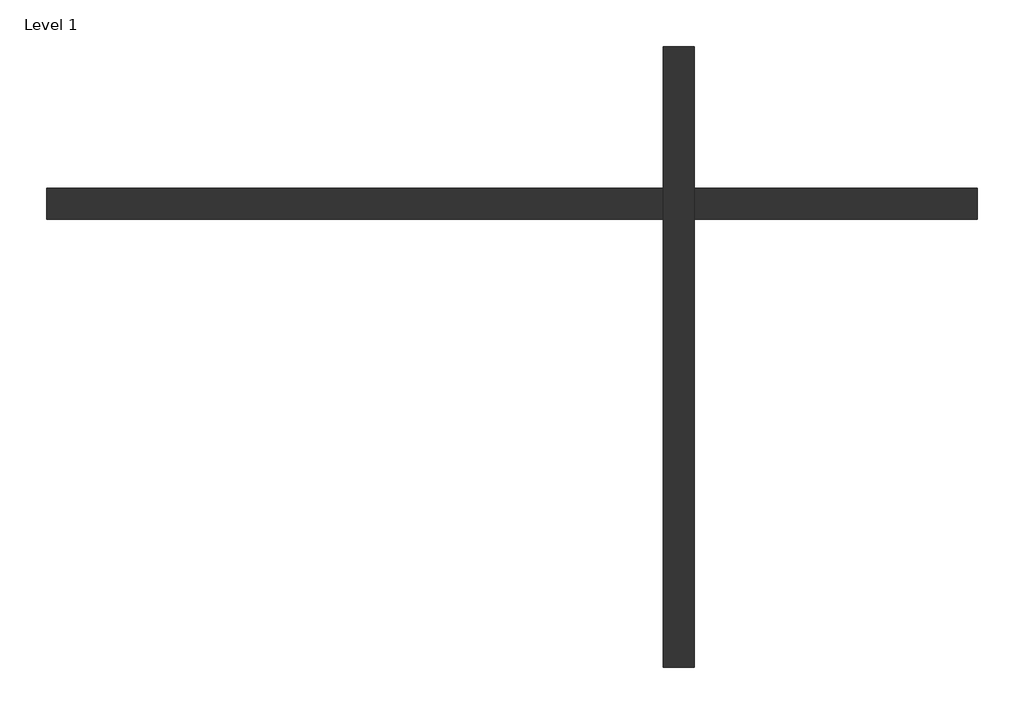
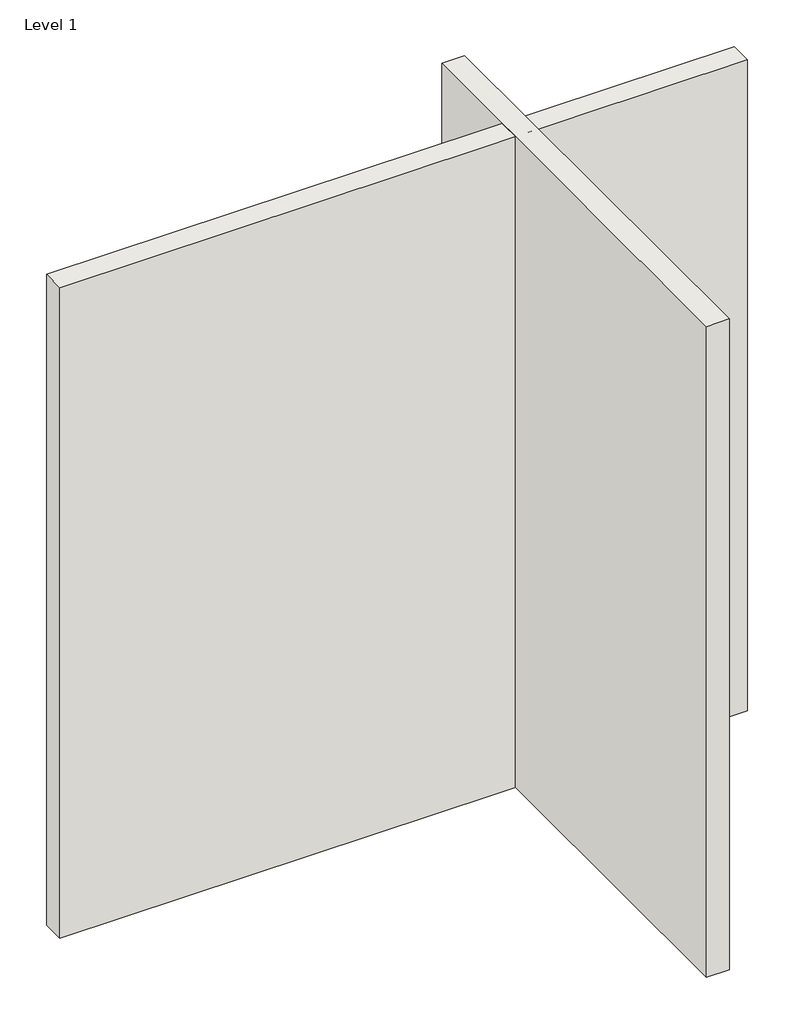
# One storey: 2 walls.
"""IFC4 building model written with IfcOpenShell, lengths in millimetres."""

from ifc_helpers import new_model, si_unit, origin, origin_with_axes, place, context, project, spatial, polyline, outline, extrude, element, save

model = new_model("IFC4")

# Units and contexts
model_context = context("Model", 3, world=origin())
ifc_project = project(units=[si_unit("LENGTHUNIT", "METRE", prefix="MILLI")], contexts=[model_context])

# Site, building, storey
site = spatial("IfcSite", under=ifc_project)
building = spatial("IfcBuilding", under=site)
storey = spatial("IfcBuildingStorey", under=building, Name="Level 1", Elevation=0.0)

# Walls
placement = place(None, origin())
element("IfcWall", 1, ObjectType="Generic - 8\"", at=placement, inside=storey, context=model_context, shape_type="SweptSolid", body=[
    extrude(outline(polyline([(3784.3397098, -741.8838621), (-2311.6602902, -741.8838621), (-2311.6602902, -538.6838621), (3784.3397098, -538.6838621), (3784.3397098, -741.8838621)])), origin_with_axes(), (0.0, 0.0, 1.0), 6096.0),
])
element("IfcWall", 2, ObjectType="Generic - 8\"", at=placement, inside=storey, context=model_context, shape_type="SweptSolid", body=[
    extrude(outline(polyline([(1726.9397098, -3675.5838621), (1726.9397098, 388.4161379), (1930.1397098, 388.4161379), (1930.1397098, -3675.5838621), (1726.9397098, -3675.5838621)])), origin_with_axes(), (0.0, 0.0, 1.0), 6096.0),
])

save(model, "model.ifc")
